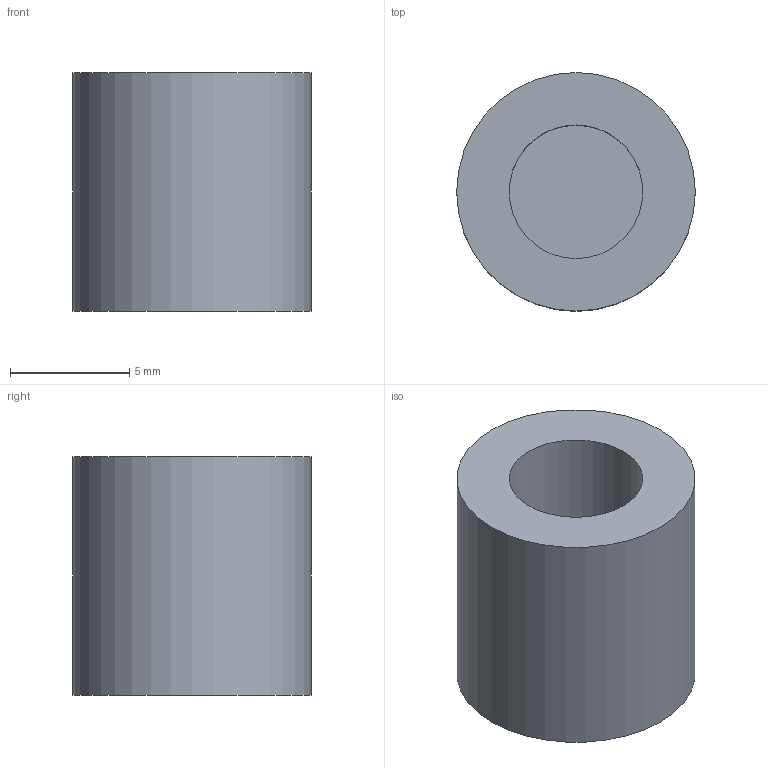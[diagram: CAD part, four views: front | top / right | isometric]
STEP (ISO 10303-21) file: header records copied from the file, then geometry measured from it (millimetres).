
FILE_DESCRIPTION(('Open CASCADE Model'),'2;1');
FILE_NAME('Open CASCADE Shape Model','2026-09-13T22:06:44',('Author'),( 'Open CASCADE'),'Open CASCADE STEP processor 7.9','Open CASCADE 7.9' ,'Unknown');
FILE_SCHEMA(('AUTOMOTIVE_DESIGN { 1 0 10303 214 1 1 1 1 }'));
Length unit declared in the file: millimetre
Products named in the file (1): Open CASCADE STEP translator 7.9 5
Bounding box: 10 x 10 x 10 mm (x, y, z)
Volume: 588.4 mm3; surface area: 612 mm2
Topology: 1 solids, 1 shells, 5 faces, 6 edges, 4 vertices
Faces by surface type: plane 3, cylinder 2
Full cylindrical faces by diameter (mm): 5.6 x1, 10 x1
Entity records: 195 total; most frequent: CARTESIAN_POINT 34, DIRECTION 33, ORIENTED_EDGE 12, PCURVE 12, DEFINITIONAL_REPRESENTATION 12, AXIS2_PLACEMENT_3D 10, LINE 10, VECTOR 10
